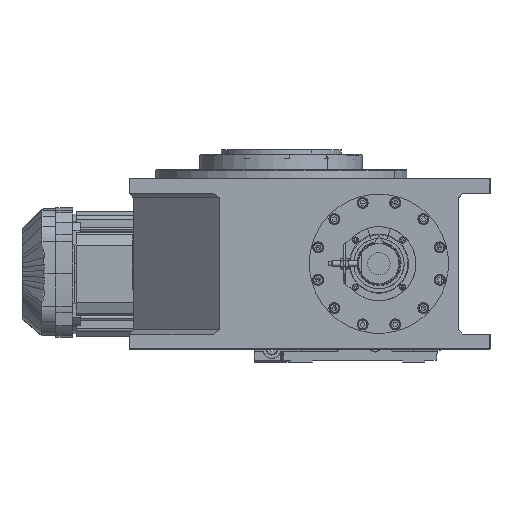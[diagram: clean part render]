
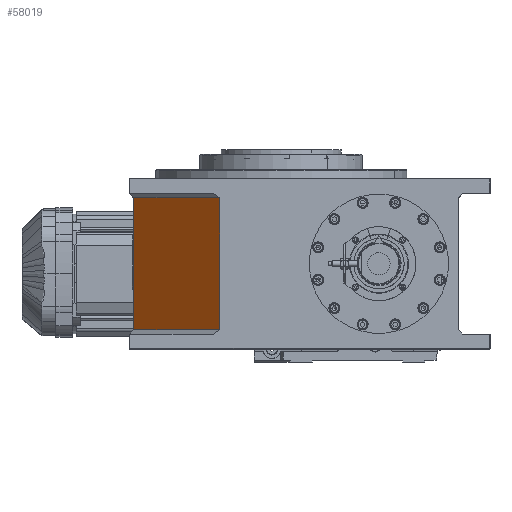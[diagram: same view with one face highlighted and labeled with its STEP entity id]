
A CAD part, top view. The second image highlights one B-rep face of the part: STEP entity #58019.
In plain terms, the highlighted planar face has unit normal (-0.707, 0, 0.707).
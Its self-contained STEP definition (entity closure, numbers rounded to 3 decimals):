
#3557 = DIRECTION ( 'NONE',  ( 0.707, 0., -0.707 ) ) ;
#6993 = CARTESIAN_POINT ( 'NONE',  ( -199., 210., 83.259 ) ) ;
#15086 = EDGE_CURVE ( 'NONE', #57769, #96994, #42429, .T. ) ;
#20839 = DIRECTION ( 'NONE',  ( 0.707, 0., 0.707 ) ) ;
#23615 = DIRECTION ( 'NONE',  ( -0.707, 0., -0.707 ) ) ;
#26091 = PLANE ( 'NONE',  #82062 ) ;
#28482 = CARTESIAN_POINT ( 'NONE',  ( -83.259, 210., 199. ) ) ;
#29358 = ORIENTED_EDGE ( 'NONE', *, *, #56298, .T. ) ;
#31090 = VECTOR ( 'NONE', #23615, 1000. ) ;
#34019 = ORIENTED_EDGE ( 'NONE', *, *, #90404, .T. ) ;
#34814 = FACE_OUTER_BOUND ( 'NONE', #65252, .T. ) ;
#36222 = LINE ( 'NONE', #99397, #73003 ) ;
#38240 = DIRECTION ( 'NONE',  ( 0., -1., 0. ) ) ;
#42429 = LINE ( 'NONE', #28482, #67365 ) ;
#49423 = CARTESIAN_POINT ( 'NONE',  ( -83.259, 26., 199. ) ) ;
#51125 = DIRECTION ( 'NONE',  ( 0., -1., 0. ) ) ;
#51381 = CARTESIAN_POINT ( 'NONE',  ( -83.259, 204., 199. ) ) ;
#56298 = EDGE_CURVE ( 'NONE', #87857, #96994, #36222, .T. ) ;
#57769 = VERTEX_POINT ( 'NONE', #51381 ) ;
#58019 = ADVANCED_FACE ( 'NONE', ( #34814 ), #26091, .F. ) ;
#59133 = CARTESIAN_POINT ( 'NONE',  ( -199., 204., 83.259 ) ) ;
#65252 = EDGE_LOOP ( 'NONE', ( #66502, #75760, #34019, #29358 ) ) ;
#66502 = ORIENTED_EDGE ( 'NONE', *, *, #15086, .F. ) ;
#66709 = DIRECTION ( 'NONE',  ( -0.707, 0., -0.707 ) ) ;
#67365 = VECTOR ( 'NONE', #51125, 1000. ) ;
#67829 = VECTOR ( 'NONE', #38240, 1000. ) ;
#71849 = VERTEX_POINT ( 'NONE', #59133 ) ;
#73003 = VECTOR ( 'NONE', #20839, 1000. ) ;
#75760 = ORIENTED_EDGE ( 'NONE', *, *, #85103, .T. ) ;
#78433 = LINE ( 'NONE', #6993, #67829 ) ;
#78733 = CARTESIAN_POINT ( 'NONE',  ( -199., 26., 83.259 ) ) ;
#82062 = AXIS2_PLACEMENT_3D ( 'NONE', #89803, #3557, #66709 ) ;
#85103 = EDGE_CURVE ( 'NONE', #57769, #71849, #93503, .T. ) ;
#85332 = CARTESIAN_POINT ( 'NONE',  ( -199., 204., 83.259 ) ) ;
#87857 = VERTEX_POINT ( 'NONE', #78733 ) ;
#89803 = CARTESIAN_POINT ( 'NONE',  ( -83.259, 210., 199. ) ) ;
#90404 = EDGE_CURVE ( 'NONE', #71849, #87857, #78433, .T. ) ;
#93503 = LINE ( 'NONE', #85332, #31090 ) ;
#96994 = VERTEX_POINT ( 'NONE', #49423 ) ;
#99397 = CARTESIAN_POINT ( 'NONE',  ( -83.259, 26., 199. ) ) ;
